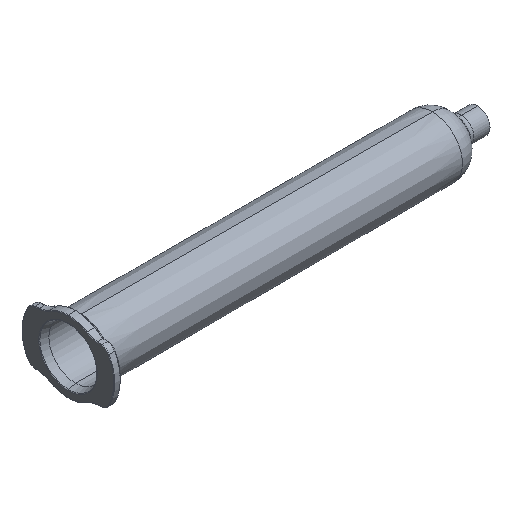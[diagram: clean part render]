
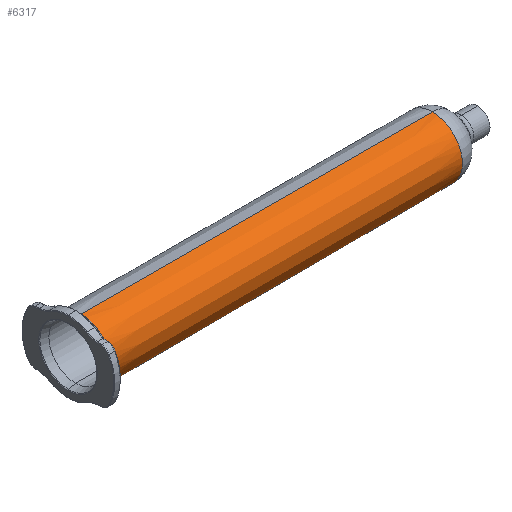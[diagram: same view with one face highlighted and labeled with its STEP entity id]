
A CAD part, isometric view. The second image highlights one B-rep face of the part: STEP entity #6317.
In plain terms, the highlighted conical face has half-angle 0.133 degrees and reference radius 12.6 mm.
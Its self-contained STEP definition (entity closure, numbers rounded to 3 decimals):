
#306 = VECTOR ( 'NONE', #12314, 1000. ) ;
#340 = LINE ( 'NONE', #13240, #10003 ) ;
#593 = ORIENTED_EDGE ( 'NONE', *, *, #1072, .T. ) ;
#1001 = DIRECTION ( 'NONE',  ( 0., 0., 1. ) ) ;
#1066 = VERTEX_POINT ( 'NONE', #9621 ) ;
#1072 = EDGE_CURVE ( 'NONE', #1066, #3978, #3727, .T. ) ;
#1619 = EDGE_CURVE ( 'NONE', #1066, #4271, #2476, .T. ) ;
#1744 = DIRECTION ( 'NONE',  ( -1., 0., 0. ) ) ;
#1953 = CARTESIAN_POINT ( 'NONE',  ( 153.992, 0., 0. ) ) ;
#2444 = ORIENTED_EDGE ( 'NONE', *, *, #1619, .F. ) ;
#2476 = LINE ( 'NONE', #6853, #306 ) ;
#3530 = DIRECTION ( 'NONE',  ( 0., 0., 1. ) ) ;
#3727 = CIRCLE ( 'NONE', #10600, 12.6 ) ;
#3978 = VERTEX_POINT ( 'NONE', #7005 ) ;
#4111 = VERTEX_POINT ( 'NONE', #11591 ) ;
#4271 = VERTEX_POINT ( 'NONE', #10154 ) ;
#4432 = CIRCLE ( 'NONE', #12457, 12.945 ) ;
#4467 = DIRECTION ( 'NONE',  ( -1., 0., 0. ) ) ;
#4712 = DIRECTION ( 'NONE',  ( -1., 0., 0.002 ) ) ;
#5307 = DIRECTION ( 'NONE',  ( -1., 0., 0. ) ) ;
#5344 = EDGE_CURVE ( 'NONE', #4271, #4111, #4432, .T. ) ;
#5646 = AXIS2_PLACEMENT_3D ( 'NONE', #11965, #5307, #1001 ) ;
#6317 = ADVANCED_FACE ( 'NONE', ( #10822 ), #12283, .T. ) ;
#6715 = EDGE_CURVE ( 'NONE', #3978, #4111, #340, .T. ) ;
#6853 = CARTESIAN_POINT ( 'NONE',  ( 153.992, 0., -12.6 ) ) ;
#7005 = CARTESIAN_POINT ( 'NONE',  ( 153.992, 0., 12.6 ) ) ;
#7087 = EDGE_LOOP ( 'NONE', ( #2444, #593, #12001, #8314 ) ) ;
#8314 = ORIENTED_EDGE ( 'NONE', *, *, #5344, .F. ) ;
#9621 = CARTESIAN_POINT ( 'NONE',  ( 153.992, 0., -12.6 ) ) ;
#10003 = VECTOR ( 'NONE', #4712, 1000. ) ;
#10154 = CARTESIAN_POINT ( 'NONE',  ( 5.5, 0., -12.945 ) ) ;
#10600 = AXIS2_PLACEMENT_3D ( 'NONE', #1953, #1744, #11566 ) ;
#10822 = FACE_OUTER_BOUND ( 'NONE', #7087, .T. ) ;
#11566 = DIRECTION ( 'NONE',  ( 0., 0., 1. ) ) ;
#11591 = CARTESIAN_POINT ( 'NONE',  ( 5.5, 0., 12.945 ) ) ;
#11965 = CARTESIAN_POINT ( 'NONE',  ( 153.992, 0., 0. ) ) ;
#12001 = ORIENTED_EDGE ( 'NONE', *, *, #6715, .T. ) ;
#12283 = CONICAL_SURFACE ( 'NONE', #5646, 12.6, 0.002 ) ;
#12314 = DIRECTION ( 'NONE',  ( -1., 0., -0.002 ) ) ;
#12457 = AXIS2_PLACEMENT_3D ( 'NONE', #13373, #4467, #3530 ) ;
#13240 = CARTESIAN_POINT ( 'NONE',  ( 153.992, 0., 12.6 ) ) ;
#13373 = CARTESIAN_POINT ( 'NONE',  ( 5.5, 0., 0. ) ) ;
